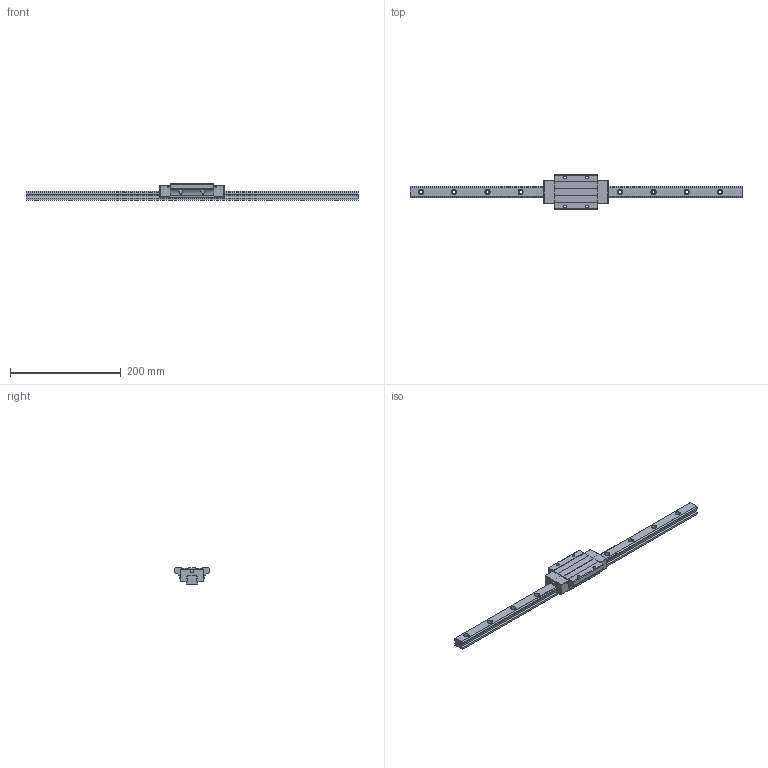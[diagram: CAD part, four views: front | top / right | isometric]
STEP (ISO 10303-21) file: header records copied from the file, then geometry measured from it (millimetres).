
FILE_DESCRIPTION (( 'STEP AP203' ), '1' );
FILE_NAME ('TRH20FE-DU.STEP', '2024-06-28T01:52:21', ( '' ), ( '' ), 'SwSTEP 2.0', 'SolidWorks 2022', '' );
FILE_SCHEMA (( 'CONFIG_CONTROL_DESIGN' ));
Length unit declared in the file: millimetre
Products named in the file (1): TRH20FE-DU
Bounding box: 600 x 63 x 30 mm (x, y, z)
Volume: 276299 mm3; surface area: 73890 mm2
Topology: 2 solids, 2 shells, 222 faces, 598 edges, 392 vertices
Faces by surface type: cylinder 126, plane 92, sphere 4
Entity records: 7687 total; most frequent: CARTESIAN_POINT 1831, DIRECTION 1242, ORIENTED_EDGE 1188, EDGE_CURVE 594, AXIS2_PLACEMENT_3D 451, VERTEX_POINT 392, VECTOR 340, LINE 340
